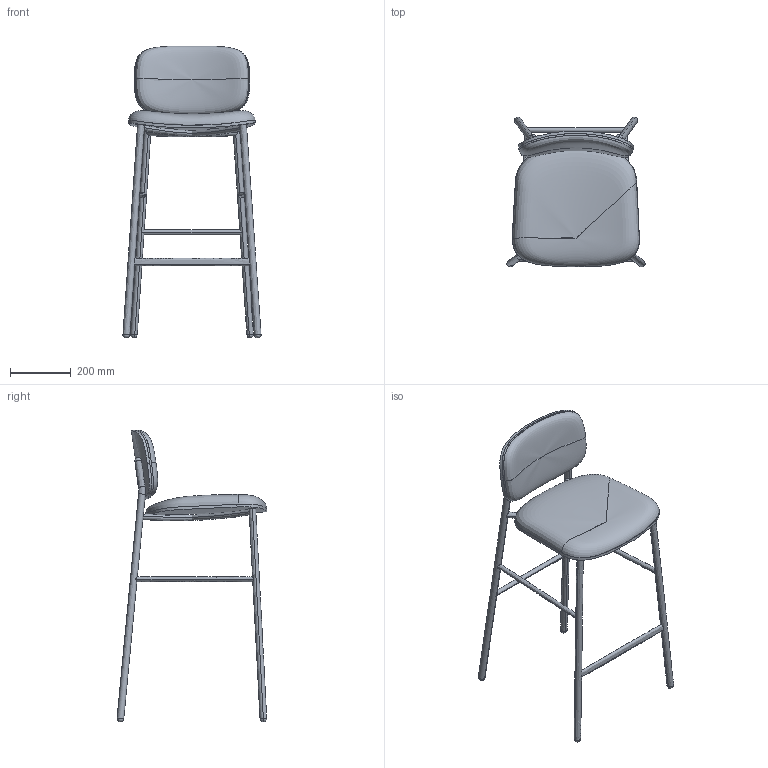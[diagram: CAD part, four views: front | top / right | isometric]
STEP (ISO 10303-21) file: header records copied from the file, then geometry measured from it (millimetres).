
FILE_DESCRIPTION(/* description */ (''),/* implementation_level */ '2;1');
FILE_NAME(/* name */ 'KINOSH~1',/* time_stamp */ '2019-07-19T17:13:18+09:00',/* author */ (''),/* organization */ (''),/* preprocessor_version */ 'ST-DEVELOPER v15',/* originating_system */ '',/* authorisation */ '');
FILE_SCHEMA (('AUTOMOTIVE_DESIGN'));
Length unit declared in the file: millimetre
Products named in the file (1): Document
Bounding box: 454.7 x 493.65 x 961.02 mm (x, y, z)
Volume: 3561269.3 mm3; surface area: 1276525.8 mm2
Topology: 9 solids, 17 shells, 109 faces, 304 edges, 192 vertices
Faces by surface type: bspline 101, plane 8
Entity records: 22103 total; most frequent: CARTESIAN_POINT 20464, ORIENTED_EDGE 528, EDGE_CURVE 286, VERTEX_POINT 190, B_SPLINE_CURVE_WITH_KNOTS 140, EDGE_LOOP 133, ADVANCED_FACE 109, FACE_OUTER_BOUND 109
